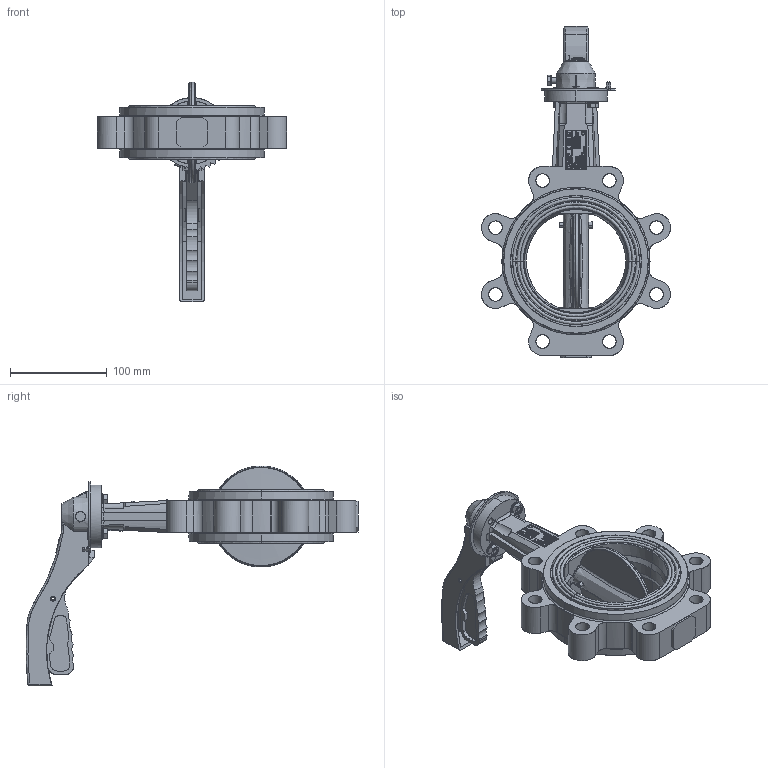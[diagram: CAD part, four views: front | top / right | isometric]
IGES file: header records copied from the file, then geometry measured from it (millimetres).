
Start section: SolidWorks IGES file using analytic representation for surfaces
Global section: file name: H:\BE BIBLIOTHEQUE 3D\BE SECTION 01 - ROBINETS A PAPILLON_VANNES PASSAGE DIRECTE\VP - Vanne Papillon\VPG\LUG\DN100\VPG464X-02XX0100VPG464X-02XX0100--.igs; native system: SolidWorks 2020; preprocessor: SolidWorks 2020; author: k.gigout; date: 220519.120834; units: millimetre
Bounding box: 195.3 x 342.93 x 227.13 mm (x, y, z)
Surface area: 204120 mm2 (no closed solid volume)
Topology: 0 solids, 0 shells, 747 faces, 18486 edges, 18482 vertices
Faces by surface type: bspline 499, revolution 248
